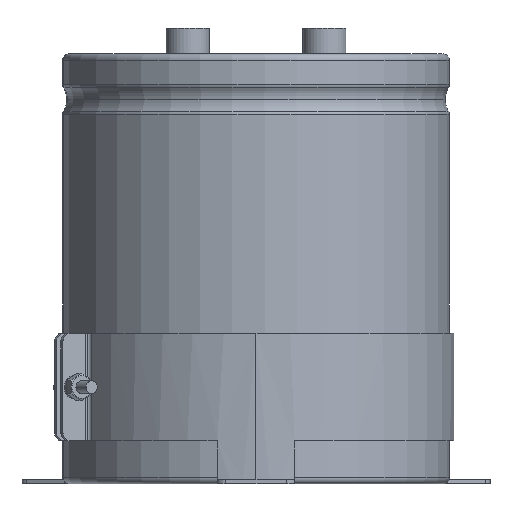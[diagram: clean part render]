
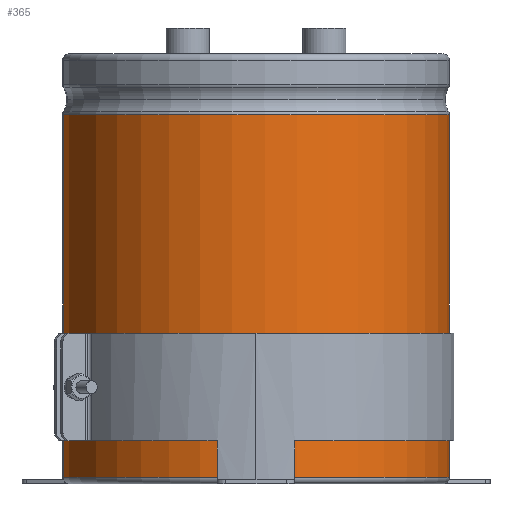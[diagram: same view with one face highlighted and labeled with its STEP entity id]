
A CAD part, left-side view. The second image highlights one B-rep face of the part: STEP entity #365.
In plain terms, the highlighted cylindrical face has radius 45 mm (diameter 90 mm), a partial arc.
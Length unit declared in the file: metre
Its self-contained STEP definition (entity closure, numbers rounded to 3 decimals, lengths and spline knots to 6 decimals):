
#365=ADVANCED_FACE('0:237',(#597),#598,.T.);
#597=FACE_OUTER_BOUND('',#1082,.T.);
#598=CYLINDRICAL_SURFACE('',#1083,0.045);
#1082=EDGE_LOOP('',(#2038,#2039,#2040,#2041));
#1083=AXIS2_PLACEMENT_3D('',#2042,#2043,#2044);
#2038=ORIENTED_EDGE('',*,*,#2995,.T.);
#2039=ORIENTED_EDGE('',*,*,#3004,.T.);
#2040=ORIENTED_EDGE('',*,*,#3006,.T.);
#2041=ORIENTED_EDGE('',*,*,#3007,.F.);
#2042=CARTESIAN_POINT('',(0.0,0.0,0.0));
#2043=DIRECTION('',(-0.0,0.0,1.0));
#2044=DIRECTION('',(0.0,1.0,0.0));
#2995=EDGE_CURVE('',#5626,#5634,#5635,.T.);
#3004=EDGE_CURVE('0:309',#5634,#5645,#5647,.T.);
#3006=EDGE_CURVE('0:312',#5645,#5649,#5650,.T.);
#3007=EDGE_CURVE('0:315',#5626,#5649,#5651,.T.);
#5626=VERTEX_POINT('',#6662);
#5634=VERTEX_POINT('',#6670);
#5635=LINE('',#6671,#6672);
#5645=VERTEX_POINT('',#6683);
#5647=CIRCLE('',#6685,0.045);
#5649=VERTEX_POINT('',#6687);
#5650=LINE('',#6688,#6689);
#5651=CIRCLE('',#6690,0.045);
#6662=CARTESIAN_POINT('',(0.,-0.045,0.0015));
#6670=CARTESIAN_POINT('',(0.,-0.045,0.0859));
#6671=CARTESIAN_POINT('',(0.,-0.045,0.0437));
#6672=VECTOR('',#8209,1.0);
#6683=CARTESIAN_POINT('',(-0.004,0.044822,0.0859));
#6685=AXIS2_PLACEMENT_3D('',#8226,#8227,#8228);
#6687=CARTESIAN_POINT('',(-0.004,0.044822,0.0015));
#6688=CARTESIAN_POINT('',(-0.004,0.044822,0.0859));
#6689=VECTOR('',#8229,0.001);
#6690=AXIS2_PLACEMENT_3D('',#8230,#8231,#8232);
#8209=DIRECTION('',(0.0,0.0,1.0));
#8226=CARTESIAN_POINT('',(0.0,0.0,0.0859));
#8227=DIRECTION('',(0.0,0.0,-1.0));
#8228=DIRECTION('',(0.0,1.0,0.0));
#8229=DIRECTION('',(0.0,0.0,-1.0));
#8230=CARTESIAN_POINT('',(0.0,0.0,0.0015));
#8231=DIRECTION('',(0.0,0.0,-1.0));
#8232=DIRECTION('',(0.0,1.0,0.0));
